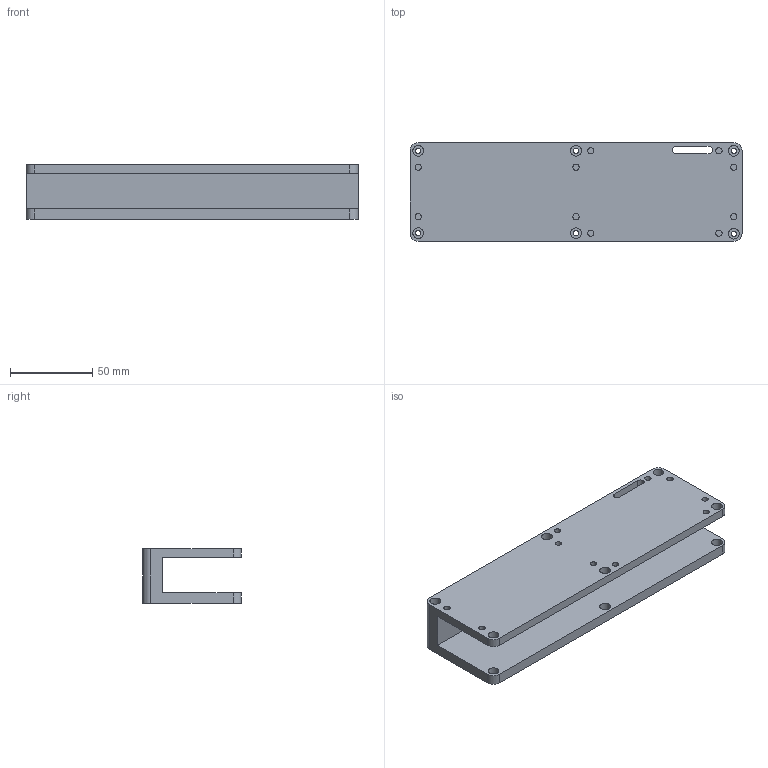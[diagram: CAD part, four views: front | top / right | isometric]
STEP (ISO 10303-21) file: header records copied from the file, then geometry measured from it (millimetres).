
FILE_DESCRIPTION(/* description */ (''),/* implementation_level */ '2;1');
FILE_NAME(/* name */ 'C:\Users\Karol\Documents\Inventor\gniazdo_desktop\blat_holder18mm.stp',/* time_stamp */ '2026-03-16T22:51:09+01:00',/* author */ ('Karol'),/* organization */ (''),/* preprocessor_version */ 'ST-DEVELOPER v16.1',/* originating_system */ 'Autodesk Inventor 2016',/* authorisation */ '');
FILE_SCHEMA (('AUTOMOTIVE_DESIGN { 1 0 10303 214 3 1 1 }'));
Length unit declared in the file: millimetre
Products named in the file (1): blat_holder18mm
Bounding box: 201.44 x 60 x 33.3 mm (x, y, z)
Volume: 185716.4 mm3; surface area: 63057.1 mm2
Topology: 1 solids, 1 shells, 53 faces, 131 edges, 90 vertices
Faces by surface type: cylinder 33, plane 20
Full cylindrical faces by diameter (mm): 3.2 x6, 3.8 x10, 6.5 x9
Entity records: 1584 total; most frequent: DIRECTION 280, CARTESIAN_POINT 250, ORIENTED_EDGE 208, EDGE_LOOP 122, AXIS2_PLACEMENT_3D 120, EDGE_CURVE 104, VERTEX_POINT 86, FACE_BOUND 69
